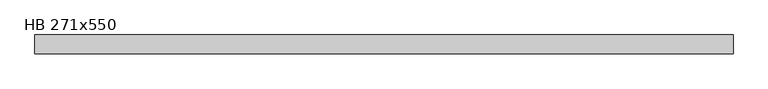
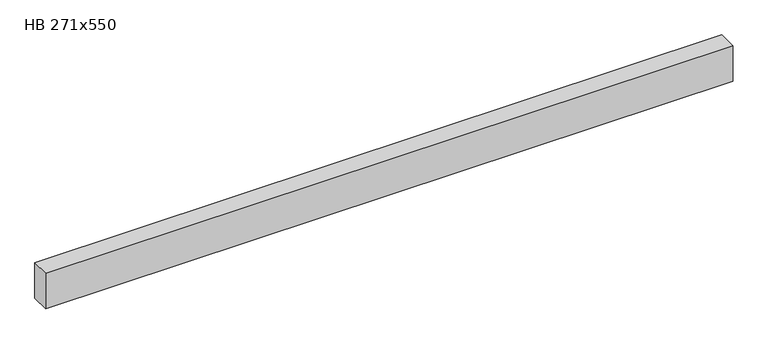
"""IFC4 building model written with IfcOpenShell, lengths in millimetres: beam geometry, NLRS_28_SF_LIB_balk hout gelamineerd_generiek_ISR : HB 271x550."""

from ifc_helpers import new_model, si_unit, frame, origin, place, context, project, spatial, polyline, outline, extrude, source, transform, mapped, element, save


def hb_271x550_97b6418f(model_context):
    return source(origin(), model_context, "Body", "SweptSolid", [
        extrude(outline(polyline([(5262.0704004, 135.5), (5262.0704004, -135.5), (-4804.9295999, -135.5), (-4804.9295999, 135.5), (5262.0704004, 135.5)])), frame((0.0, 0.0, -275.0), z_axis=(0.0, 0.0, 1.0), x_axis=(1.0, 0.0, 0.0)), (0.0, 0.0, 1.0), 550.0),
    ])


if __name__ == "__main__":
    model = new_model("IFC4")
    model_context = context("Model", 3, world=origin())
    ifc_project = project(units=[si_unit("LENGTHUNIT", "METRE", prefix="MILLI")], contexts=[model_context])
    site = spatial("IfcSite", under=ifc_project)
    building = spatial("IfcBuilding", under=site)
    placement = place(None, origin())
    hb_271x550_shape = hb_271x550_97b6418f(model_context)
    element("IfcBeam", 1, ObjectType="NLRS_28_SF_LIB_balk hout gelamineerd_generiek_ISR : HB 271x550", at=placement, inside=building, context=model_context, shape_type="MappedRepresentation", body=[
        mapped(hb_271x550_shape, transform((0.0, 0.0, 0.0), x_axis=(1.0, 0.0, 0.0), y_axis=(0.0, 1.0, 0.0), z_axis=(0.0, 0.0, 1.0))),
    ])
    save(model, "model.ifc")
